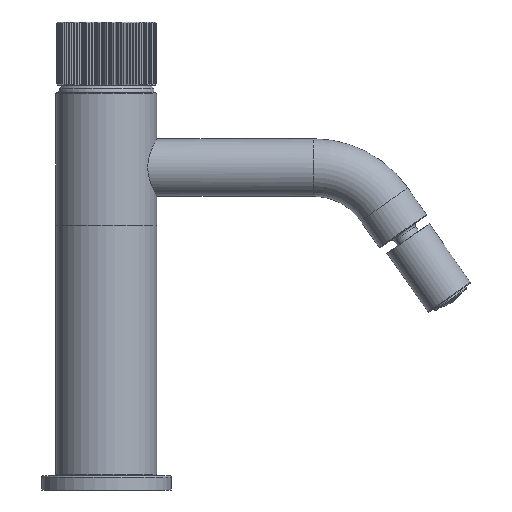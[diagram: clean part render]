
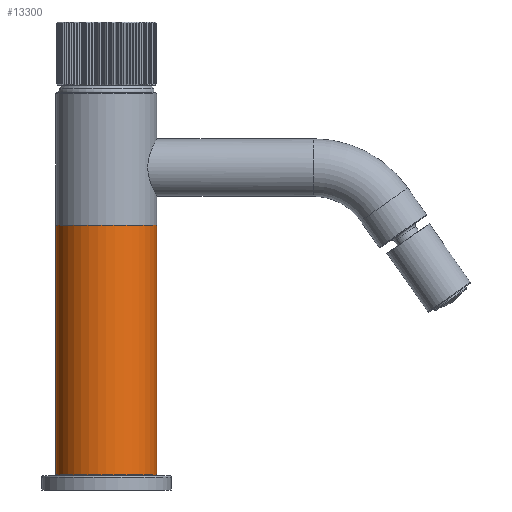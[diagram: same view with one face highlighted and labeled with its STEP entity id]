
A CAD part, front view. The second image highlights one B-rep face of the part: STEP entity #13300.
In plain terms, the highlighted cylindrical face has radius 17.5 mm (diameter 35 mm), a full revolution.
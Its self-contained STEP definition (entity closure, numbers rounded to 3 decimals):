
#2690=CYLINDRICAL_SURFACE('',#19177,17.5);
#2966=ORIENTED_EDGE('',*,*,#6918,.F.);
#2967=ORIENTED_EDGE('',*,*,#6919,.T.);
#6918=EDGE_CURVE('',#8928,#8928,#10324,.F.);
#6919=EDGE_CURVE('',#8929,#8929,#10325,.F.);
#8928=VERTEX_POINT('',#24547);
#8929=VERTEX_POINT('',#24549);
#10324=CIRCLE('',#19178,17.5);
#10325=CIRCLE('',#19179,17.5);
#11003=EDGE_LOOP('',(#2966));
#11004=EDGE_LOOP('',(#2967));
#12007=FACE_BOUND('',#11003,.T.);
#12008=FACE_BOUND('',#11004,.T.);
#13300=ADVANCED_FACE('',(#12007,#12008),#2690,.T.);
#19177=AXIS2_PLACEMENT_3D('',#24545,#20746,#20747);
#19178=AXIS2_PLACEMENT_3D('',#24546,#20748,#20749);
#19179=AXIS2_PLACEMENT_3D('',#24548,#20750,#20751);
#20746=DIRECTION('',(0.,0.,-1.));
#20747=DIRECTION('',(-1.,0.,0.));
#20748=DIRECTION('',(0.,0.,-1.));
#20749=DIRECTION('',(-1.,0.,0.));
#20750=DIRECTION('',(0.,0.,-1.));
#20751=DIRECTION('',(-1.,0.,0.));
#24545=CARTESIAN_POINT('',(0.,0.,128.4));
#24546=CARTESIAN_POINT('',(0.,0.,86.8));
#24547=CARTESIAN_POINT('',(-17.5,0.,86.8));
#24548=CARTESIAN_POINT('',(0.,0.,0.3));
#24549=CARTESIAN_POINT('',(-17.5,0.,0.3));
